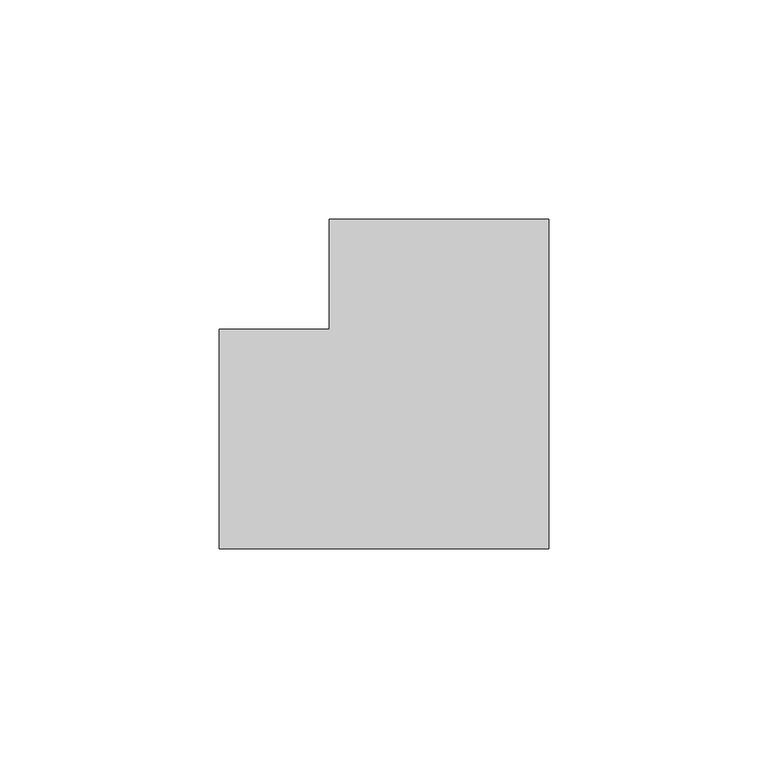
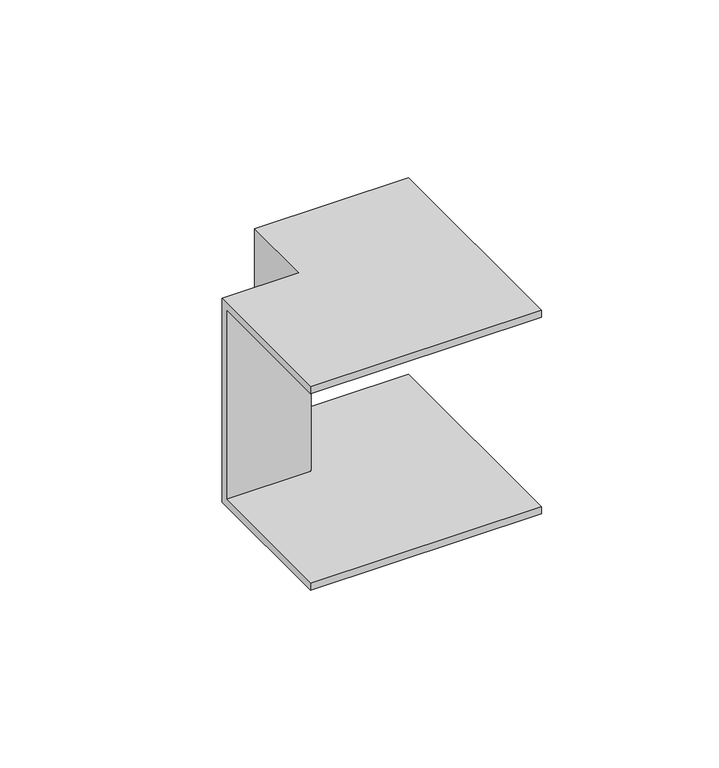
"""IFC4 building model written with IfcOpenShell, lengths in millimetres: cable carrier fitting geometry, КНС_УголВнешний_ILF_DKC : Белый."""

from ifc_helpers import new_model, si_unit, origin, place, context, project, spatial, faceted_brep, source, transform, mapped, element, save


def cable_carrier_fitting_2694b6d5(model_context):
    return source(origin(), model_context, "Body", "Brep", [
        faceted_brep([(-50.0, 25.0, 35.0), (-50.0, 25.0, -35.0), (-50.0, -25.0, -35.0), (-50.0, -25.0, -32.5), (-50.0, 22.5, -32.5), (-50.0, 22.5, 32.5), (-50.0, -25.0, 32.5), (-50.0, -25.0, 35.0), (-25.0, 50.0, 35.0), (25.0, 50.0, 35.0), (25.0, 50.0, 32.5), (-22.5, 50.0, 32.5), (-22.5, 50.0, -32.5), (25.0, 50.0, -32.5), (25.0, 50.0, -35.0), (-25.0, 50.0, -35.0), (-25.0, 25.0, 35.0), (-25.0, 25.0, -35.0), (25.0, -25.0, -35.0), (25.0, -25.0, -32.5), (-22.5, 22.5, -32.5), (-22.5, 22.5, 32.5), (25.0, -25.0, 32.5), (25.0, -25.0, 35.0)], [[[0, 1, 2, 3, 4, 5, 6, 7]], [[8, 9, 10, 11, 12, 13, 14, 15]], [[1, 0, 16, 17]], [[2, 1, 17, 15, 14, 18]], [[3, 2, 18, 19]], [[4, 3, 19, 13, 12, 20]], [[5, 4, 20, 21]], [[6, 5, 21, 11, 10, 22]], [[7, 6, 22, 23]], [[0, 7, 23, 9, 8, 16]], [[17, 16, 8, 15]], [[19, 18, 14, 13]], [[21, 20, 12, 11]], [[23, 22, 10, 9]]]),
    ])


if __name__ == "__main__":
    model = new_model("IFC4")
    model_context = context("Model", 3, world=origin())
    ifc_project = project(units=[si_unit("LENGTHUNIT", "METRE", prefix="MILLI")], contexts=[model_context])
    site = spatial("IfcSite", under=ifc_project)
    building = spatial("IfcBuilding", under=site)
    placement = place(None, origin())
    cable_carrier_fitting_shape = cable_carrier_fitting_2694b6d5(model_context)
    element("IfcCableCarrierFitting", 1, ObjectType="КНС_УголВнешний_ILF_DKC : Белый", at=placement, inside=building, context=model_context, shape_type="MappedRepresentation", body=[
        mapped(cable_carrier_fitting_shape, transform((0.0, 0.0, 0.0), x_axis=(1.0, 0.0, 0.0), y_axis=(0.0, 1.0, 0.0), z_axis=(0.0, 0.0, 1.0))),
    ])
    save(model, "model.ifc")
